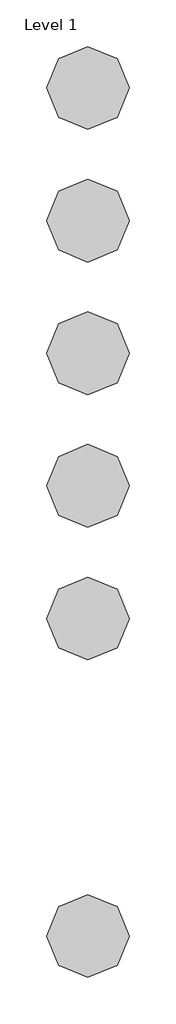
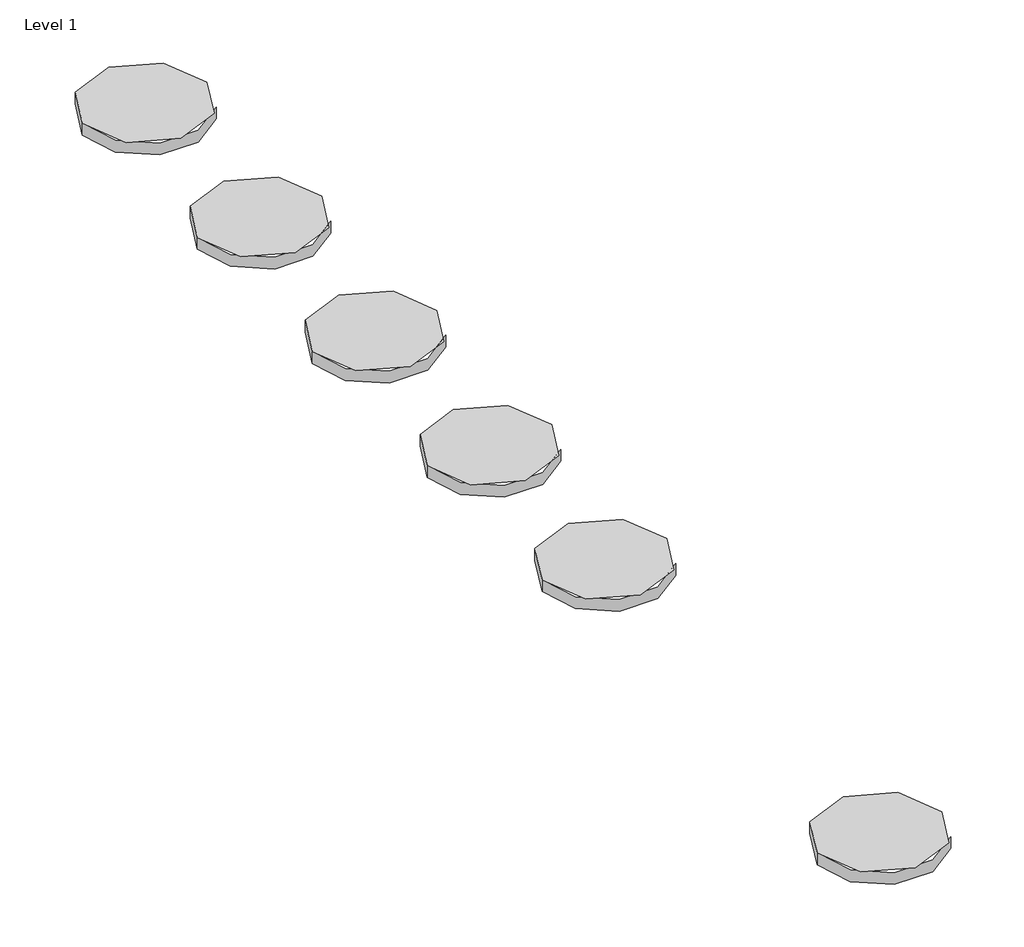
# One storey, incomplete: 6 proxies.
"""IFC4 building model written with IfcOpenShell, lengths in millimetres."""

from ifc_helpers import new_model, si_unit, origin, place, context, project, spatial, transform, mapped, element, save
from components import materialmodel_materialmodel_ac00f72a

model = new_model("IFC4")

# Units and contexts
model_context = context("Model", 3, world=origin())
ifc_project = project(units=[si_unit("LENGTHUNIT", "METRE", prefix="MILLI")], contexts=[model_context])

# Site, building, storey
site = spatial("IfcSite", under=ifc_project)
building = spatial("IfcBuilding", under=site)
storey = spatial("IfcBuildingStorey", under=building, Name="Level 1", Elevation=0.0)

# Proxies
placement = place(None, origin())
materialmodel_materialmodel_shape = materialmodel_materialmodel_ac00f72a(model_context)
element("IfcBuildingElementProxy", 1, Name="MaterialModel : MaterialModel", ObjectType="MaterialModel : MaterialModel", at=placement, inside=storey, context=model_context, shape_type="MappedRepresentation", body=[
    mapped(materialmodel_materialmodel_shape, transform((-10325.5786717, 4874.7987281, 0.0), x_axis=(1.0, 0.0, 0.0), y_axis=(0.0, 1.0, 0.0), z_axis=(0.0, 0.0, 1.0))),
])
element("IfcBuildingElementProxy", 2, Name="MaterialModel : MaterialModel", ObjectType="MaterialModel : MaterialModel", at=placement, inside=storey, context=model_context, shape_type="MappedRepresentation", body=[
    mapped(materialmodel_materialmodel_shape, transform((-10325.5786717, 6920.6759077, 0.0), x_axis=(1.0, 0.0, 0.0), y_axis=(0.0, 1.0, 0.0), z_axis=(0.0, 0.0, 1.0))),
])
element("IfcBuildingElementProxy", 3, Name="MaterialModel : MaterialModel", ObjectType="MaterialModel : MaterialModel", at=placement, inside=storey, context=model_context, shape_type="MappedRepresentation", body=[
    mapped(materialmodel_materialmodel_shape, transform((-10325.5786717, 6600.6759077, 0.0), x_axis=(1.0, 0.0, 0.0), y_axis=(0.0, 1.0, 0.0), z_axis=(0.0, 0.0, 1.0))),
])
element("IfcBuildingElementProxy", 4, Name="MaterialModel : MaterialModel", ObjectType="MaterialModel : MaterialModel", at=placement, inside=storey, context=model_context, shape_type="MappedRepresentation", body=[
    mapped(materialmodel_materialmodel_shape, transform((-10325.5786717, 6280.6759077, 0.0), x_axis=(1.0, 0.0, 0.0), y_axis=(0.0, 1.0, 0.0), z_axis=(0.0, 0.0, 1.0))),
])
element("IfcBuildingElementProxy", 5, Name="MaterialModel : MaterialModel", ObjectType="MaterialModel : MaterialModel", at=placement, inside=storey, context=model_context, shape_type="MappedRepresentation", body=[
    mapped(materialmodel_materialmodel_shape, transform((-10325.5786717, 5960.6759077, 0.0), x_axis=(1.0, 0.0, 0.0), y_axis=(0.0, 1.0, 0.0), z_axis=(0.0, 0.0, 1.0))),
])
element("IfcBuildingElementProxy", 6, Name="MaterialModel : MaterialModel", ObjectType="MaterialModel : MaterialModel", at=placement, inside=storey, context=model_context, shape_type="MappedRepresentation", body=[
    mapped(materialmodel_materialmodel_shape, transform((-10325.5786717, 5640.6759077, 0.0), x_axis=(1.0, 0.0, 0.0), y_axis=(0.0, 1.0, 0.0), z_axis=(0.0, 0.0, 1.0))),
])

save(model, "model.ifc")
